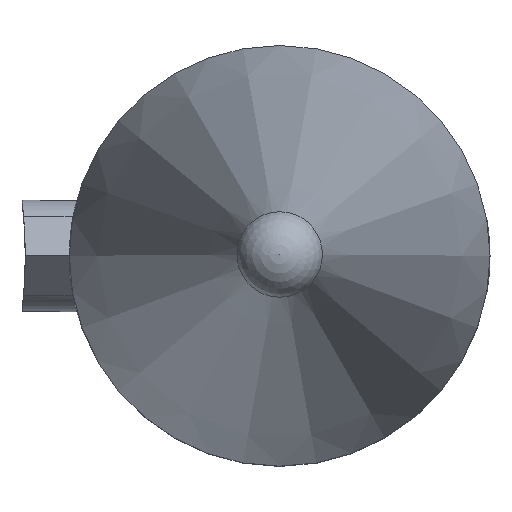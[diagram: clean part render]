
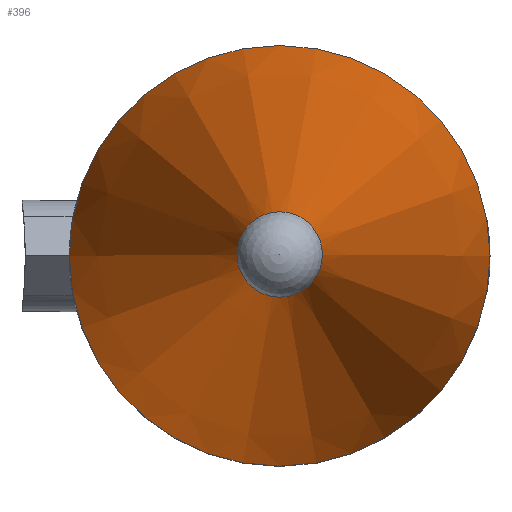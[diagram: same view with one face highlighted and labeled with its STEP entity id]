
A CAD part, top view. The second image highlights one B-rep face of the part: STEP entity #396.
In plain terms, the highlighted conical face has half-angle 12.3 degrees and reference radius 7.956 mm.
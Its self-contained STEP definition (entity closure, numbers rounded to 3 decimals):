
#20=CONICAL_SURFACE('',#468,7.956,0.215);
#86=FACE_OUTER_BOUND('',#114,.T.);
#114=EDGE_LOOP('',(#361,#362,#363,#364));
#132=LINE('',#846,#150);
#150=VECTOR('',#586,7.956);
#155=CIRCLE('',#457,13.225);
#159=CIRCLE('',#466,2.687);
#180=VERTEX_POINT('',#682);
#195=VERTEX_POINT('',#841);
#242=EDGE_CURVE('',#180,#180,#155,.T.);
#250=EDGE_CURVE('',#195,#195,#159,.T.);
#252=EDGE_CURVE('',#180,#195,#132,.T.);
#361=ORIENTED_EDGE('',*,*,#242,.F.);
#362=ORIENTED_EDGE('',*,*,#252,.T.);
#363=ORIENTED_EDGE('',*,*,#250,.T.);
#364=ORIENTED_EDGE('',*,*,#252,.F.);
#396=ADVANCED_FACE('',(#86),#20,.T.);
#457=AXIS2_PLACEMENT_3D('',#790,#560,#561);
#466=AXIS2_PLACEMENT_3D('',#842,#580,#581);
#468=AXIS2_PLACEMENT_3D('',#845,#584,#585);
#560=DIRECTION('center_axis',(0.,0.,-1.));
#561=DIRECTION('ref_axis',(1.,0.,0.));
#580=DIRECTION('center_axis',(0.,0.,-1.));
#581=DIRECTION('ref_axis',(1.,0.,0.));
#584=DIRECTION('center_axis',(0.,0.,-1.));
#585=DIRECTION('ref_axis',(1.,0.,0.));
#586=DIRECTION('',(0.213,0.,0.977));
#682=CARTESIAN_POINT('',(33.525,0.,278.363));
#790=CARTESIAN_POINT('Origin',(46.75,0.,278.363));
#841=CARTESIAN_POINT('',(44.063,0.,326.695));
#842=CARTESIAN_POINT('Origin',(46.75,0.,326.695));
#845=CARTESIAN_POINT('Origin',(46.75,0.,302.529));
#846=CARTESIAN_POINT('',(38.794,0.,302.529));
